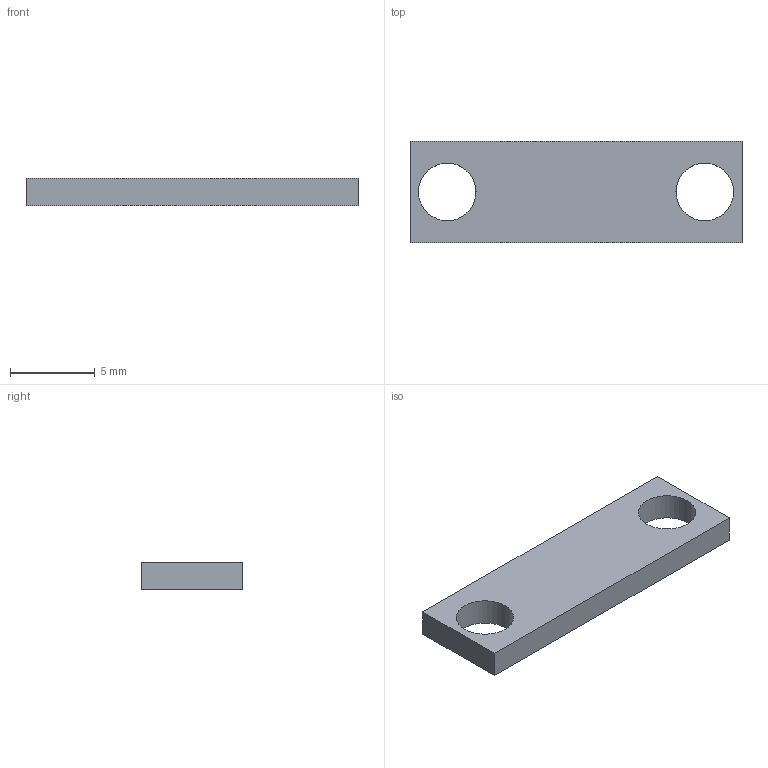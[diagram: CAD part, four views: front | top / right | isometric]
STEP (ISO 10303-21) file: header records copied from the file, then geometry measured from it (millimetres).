
FILE_DESCRIPTION(('FreeCAD Model'),'2;1');
FILE_NAME('Open CASCADE Shape Model','2026-11-20T08:25:38',('FreeCAD'),( 'FreeCAD'),'Open CASCADE STEP processor 7.8','FreeCAD','Unknown');
FILE_SCHEMA(('AUTOMOTIVE_DESIGN { 1 0 10303 214 1 1 1 1 }'));
Length unit declared in the file: millimetre
Products named in the file (1): Open CASCADE STEP translator 7.8 64
Bounding box: 19.6 x 6 x 1.6 mm (x, y, z)
Volume: 159.1 mm3; surface area: 315 mm2
Topology: 1 solids, 1 shells, 8 faces, 18 edges, 12 vertices
Faces by surface type: plane 6, cylinder 2
Full cylindrical faces by diameter (mm): 3.4 x2
Entity records: 244 total; most frequent: DIRECTION 40, CARTESIAN_POINT 39, ORIENTED_EDGE 36, EDGE_CURVE 18, LINE 14, VECTOR 14, AXIS2_PLACEMENT_3D 13, FACE_BOUND 12
